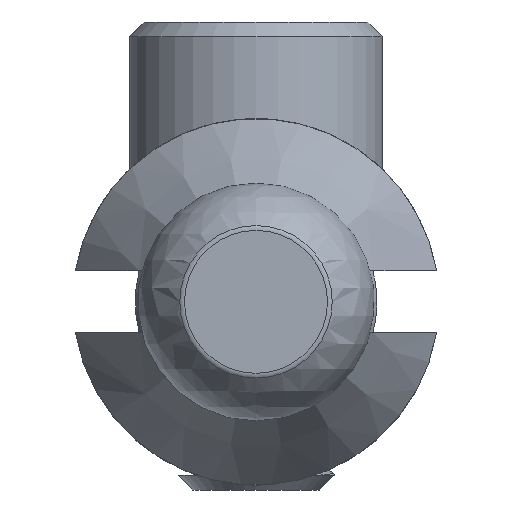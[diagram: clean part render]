
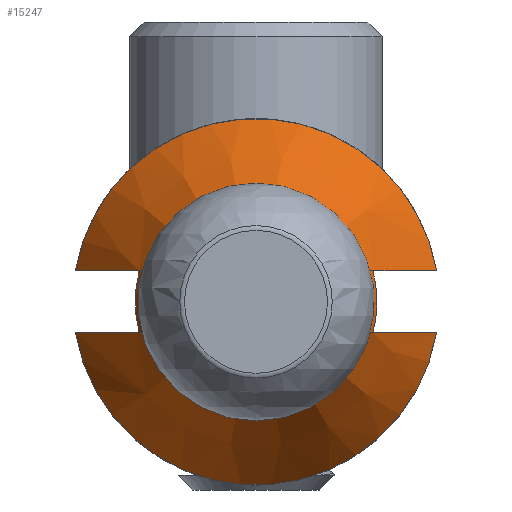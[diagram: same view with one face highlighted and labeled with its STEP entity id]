
A CAD part, left-side view. The second image highlights one B-rep face of the part: STEP entity #15247.
In plain terms, the highlighted conical face has half-angle 30 degrees and reference radius 6.382 mm.
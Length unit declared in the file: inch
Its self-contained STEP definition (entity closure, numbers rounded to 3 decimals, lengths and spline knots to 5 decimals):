
#2536=LINE('',#29831,#3775);
#3775=VECTOR('',#20020,0.25125);
#4703=FACE_OUTER_BOUND('',#5608,.T.);
#5608=EDGE_LOOP('',(#14255,#14256,#14257,#14258,#14259,#14260,#14261,#14262,
#14263,#14264,#14265,#14266,#14267));
#6169=CIRCLE('',#16455,0.24407);
#6170=CIRCLE('',#16456,0.24407);
#6171=CIRCLE('',#16457,0.24407);
#6175=CIRCLE('',#16464,0.37);
#6180=CIRCLE('',#16470,0.37);
#6192=CIRCLE('',#16492,0.1325);
#6193=CIRCLE('',#16493,0.1325);
#6208=(
BOUNDED_CURVE()
B_SPLINE_CURVE(2,(#29725,#29726,#29727),.UNSPECIFIED.,.F.,.F.)
B_SPLINE_CURVE_WITH_KNOTS((3,3),(0.,0.64332),.UNSPECIFIED.)
CURVE()
GEOMETRIC_REPRESENTATION_ITEM()
RATIONAL_B_SPLINE_CURVE((1.,1.023,1.))
REPRESENTATION_ITEM('')
);
#6209=(
BOUNDED_CURVE()
B_SPLINE_CURVE(2,(#29731,#29732,#29733),.UNSPECIFIED.,.F.,.F.)
B_SPLINE_CURVE_WITH_KNOTS((3,3),(0.,0.64332),.UNSPECIFIED.)
CURVE()
GEOMETRIC_REPRESENTATION_ITEM()
RATIONAL_B_SPLINE_CURVE((1.,1.023,1.))
REPRESENTATION_ITEM('')
);
#6210=(
BOUNDED_CURVE()
B_SPLINE_CURVE(2,(#29752,#29753,#29754),.UNSPECIFIED.,.F.,.F.)
B_SPLINE_CURVE_WITH_KNOTS((3,3),(0.,0.64332),.UNSPECIFIED.)
CURVE()
GEOMETRIC_REPRESENTATION_ITEM()
RATIONAL_B_SPLINE_CURVE((1.,1.023,1.))
REPRESENTATION_ITEM('')
);
#6211=(
BOUNDED_CURVE()
B_SPLINE_CURVE(2,(#29756,#29757,#29758),.UNSPECIFIED.,.F.,.F.)
B_SPLINE_CURVE_WITH_KNOTS((3,3),(0.,0.64332),.UNSPECIFIED.)
CURVE()
GEOMETRIC_REPRESENTATION_ITEM()
RATIONAL_B_SPLINE_CURVE((1.,1.023,1.))
REPRESENTATION_ITEM('')
);
#7624=VERTEX_POINT('',#29722);
#7625=VERTEX_POINT('',#29724);
#7626=VERTEX_POINT('',#29728);
#7627=VERTEX_POINT('',#29730);
#7630=VERTEX_POINT('',#29740);
#7631=VERTEX_POINT('',#29741);
#7632=VERTEX_POINT('',#29743);
#7634=VERTEX_POINT('',#29750);
#7635=VERTEX_POINT('',#29755);
#7648=VERTEX_POINT('',#29825);
#7649=VERTEX_POINT('',#29827);
#9825=EDGE_CURVE('',#7625,#7624,#6208,.T.);
#9827=EDGE_CURVE('',#7627,#7626,#6209,.T.);
#9831=EDGE_CURVE('',#7630,#7631,#6169,.T.);
#9833=EDGE_CURVE('',#7626,#7632,#6170,.T.);
#9834=EDGE_CURVE('',#7631,#7625,#6171,.T.);
#9837=EDGE_CURVE('',#7632,#7634,#6210,.T.);
#9838=EDGE_CURVE('',#7635,#7630,#6211,.T.);
#9842=EDGE_CURVE('',#7635,#7634,#6175,.T.);
#9851=EDGE_CURVE('',#7627,#7624,#6180,.T.);
#9863=EDGE_CURVE('',#7649,#7648,#6192,.T.);
#9864=EDGE_CURVE('',#7648,#7649,#6193,.T.);
#9865=EDGE_CURVE('',#7631,#7649,#2536,.T.);
#14255=ORIENTED_EDGE('',*,*,#9825,.T.);
#14256=ORIENTED_EDGE('',*,*,#9851,.F.);
#14257=ORIENTED_EDGE('',*,*,#9827,.T.);
#14258=ORIENTED_EDGE('',*,*,#9833,.T.);
#14259=ORIENTED_EDGE('',*,*,#9837,.T.);
#14260=ORIENTED_EDGE('',*,*,#9842,.F.);
#14261=ORIENTED_EDGE('',*,*,#9838,.T.);
#14262=ORIENTED_EDGE('',*,*,#9831,.T.);
#14263=ORIENTED_EDGE('',*,*,#9865,.T.);
#14264=ORIENTED_EDGE('',*,*,#9863,.T.);
#14265=ORIENTED_EDGE('',*,*,#9864,.T.);
#14266=ORIENTED_EDGE('',*,*,#9865,.F.);
#14267=ORIENTED_EDGE('',*,*,#9834,.T.);
#14454=CONICAL_SURFACE('',#16494,0.25125,0.524);
#15247=ADVANCED_FACE('',(#4703),#14454,.T.);
#16455=AXIS2_PLACEMENT_3D('',#29742,#19935,#19936);
#16456=AXIS2_PLACEMENT_3D('',#29745,#19938,#19939);
#16457=AXIS2_PLACEMENT_3D('',#29746,#19940,#19941);
#16464=AXIS2_PLACEMENT_3D('',#29765,#19956,#19957);
#16470=AXIS2_PLACEMENT_3D('',#29798,#19970,#19971);
#16492=AXIS2_PLACEMENT_3D('',#29828,#20014,#20015);
#16493=AXIS2_PLACEMENT_3D('',#29829,#20016,#20017);
#16494=AXIS2_PLACEMENT_3D('',#29830,#20018,#20019);
#19935=DIRECTION('center_axis',(-1.,0.,0.));
#19936=DIRECTION('ref_axis',(0.,1.,0.));
#19938=DIRECTION('center_axis',(-1.,0.,0.));
#19939=DIRECTION('ref_axis',(0.,1.,0.));
#19940=DIRECTION('center_axis',(-1.,0.,0.));
#19941=DIRECTION('ref_axis',(0.,1.,0.));
#19956=DIRECTION('center_axis',(1.,0.,0.));
#19957=DIRECTION('ref_axis',(0.,0.,-1.));
#19970=DIRECTION('center_axis',(1.,0.,0.));
#19971=DIRECTION('ref_axis',(0.,0.,-1.));
#20014=DIRECTION('center_axis',(1.,0.,0.));
#20015=DIRECTION('ref_axis',(0.,0.,-1.));
#20016=DIRECTION('center_axis',(1.,0.,0.));
#20017=DIRECTION('ref_axis',(0.,0.,-1.));
#20018=DIRECTION('center_axis',(1.,0.,0.));
#20019=DIRECTION('ref_axis',(0.,1.,0.));
#20020=DIRECTION('',(-0.866,0.5,0.));
#29722=CARTESIAN_POINT('',(0.31307,-0.36468,0.0625));
#29724=CARTESIAN_POINT('',(0.09495,-0.23594,0.0625));
#29725=CARTESIAN_POINT('Ctrl Pts',(0.09495,-0.23594,
0.0625));
#29726=CARTESIAN_POINT('Ctrl Pts',(0.18063,-0.28711,
0.0625));
#29727=CARTESIAN_POINT('Ctrl Pts',(0.31307,-0.36468,
0.0625));
#29728=CARTESIAN_POINT('',(0.09495,0.23594,0.0625));
#29730=CARTESIAN_POINT('',(0.31307,0.36468,0.0625));
#29731=CARTESIAN_POINT('Ctrl Pts',(0.31307,0.36468,
0.0625));
#29732=CARTESIAN_POINT('Ctrl Pts',(0.18063,0.28711,
0.0625));
#29733=CARTESIAN_POINT('Ctrl Pts',(0.09495,0.23594,
0.0625));
#29740=CARTESIAN_POINT('',(0.09495,-0.23594,-0.0625));
#29741=CARTESIAN_POINT('',(0.09495,-0.24407,0.));
#29742=CARTESIAN_POINT('Origin',(0.09495,0.,0.));
#29743=CARTESIAN_POINT('',(0.09495,0.23594,-0.0625));
#29745=CARTESIAN_POINT('Origin',(0.09495,0.,0.));
#29746=CARTESIAN_POINT('Origin',(0.09495,0.,0.));
#29750=CARTESIAN_POINT('',(0.31307,0.36468,-0.0625));
#29752=CARTESIAN_POINT('Ctrl Pts',(0.09495,0.23594,
-0.0625));
#29753=CARTESIAN_POINT('Ctrl Pts',(0.18063,0.28711,
-0.0625));
#29754=CARTESIAN_POINT('Ctrl Pts',(0.31307,0.36468,
-0.0625));
#29755=CARTESIAN_POINT('',(0.31307,-0.36468,-0.0625));
#29756=CARTESIAN_POINT('Ctrl Pts',(0.31307,-0.36468,
-0.0625));
#29757=CARTESIAN_POINT('Ctrl Pts',(0.18063,-0.28711,
-0.0625));
#29758=CARTESIAN_POINT('Ctrl Pts',(0.09495,-0.23594,
-0.0625));
#29765=CARTESIAN_POINT('Origin',(0.31307,0.,0.));
#29798=CARTESIAN_POINT('Origin',(0.31307,0.,0.));
#29825=CARTESIAN_POINT('',(-0.0983,0.,0.1325));
#29827=CARTESIAN_POINT('',(-0.0983,-0.1325,0.));
#29828=CARTESIAN_POINT('Origin',(-0.0983,0.,0.));
#29829=CARTESIAN_POINT('Origin',(-0.0983,0.,0.));
#29830=CARTESIAN_POINT('Origin',(0.10738,0.,0.));
#29831=CARTESIAN_POINT('',(0.10738,-0.25125,0.));
